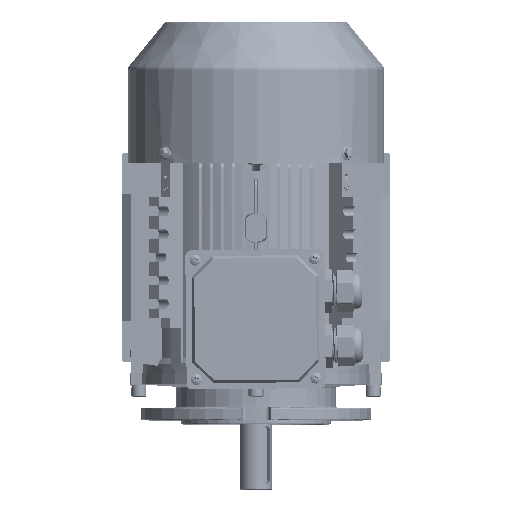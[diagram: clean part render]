
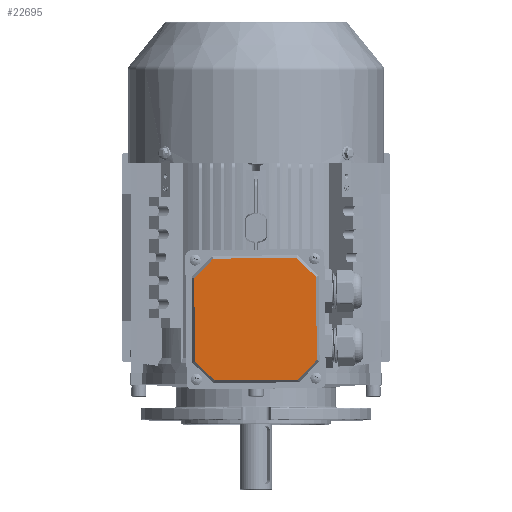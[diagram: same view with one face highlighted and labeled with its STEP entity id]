
A CAD part, top view. The second image highlights one B-rep face of the part: STEP entity #22695.
In plain terms, the highlighted planar face has unit normal (0, 0, 1) as drawn and (0, 0, -1) by its records, which use the part's own axes.
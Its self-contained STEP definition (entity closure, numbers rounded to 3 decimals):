
#18 = EDGE_CURVE ( 'NONE', #8169, #67440, #118262, .T. ) ;
#1458 = CARTESIAN_POINT ( 'NONE',  ( 35.903, -52.536, -4. ) ) ;
#4625 = EDGE_CURVE ( 'NONE', #53306, #39094, #10805, .T. ) ;
#4949 = LINE ( 'NONE', #43009, #77879 ) ;
#8169 = VERTEX_POINT ( 'NONE', #25770 ) ;
#8523 = VECTOR ( 'NONE', #73063, 1000. ) ;
#10805 = LINE ( 'NONE', #101719, #105967 ) ;
#12947 = VERTEX_POINT ( 'NONE', #62639 ) ;
#14933 = CARTESIAN_POINT ( 'NONE',  ( -35.903, -52.536, -4. ) ) ;
#17976 = EDGE_CURVE ( 'NONE', #88581, #93858, #122873, .T. ) ;
#21883 = VECTOR ( 'NONE', #92685, 1000. ) ;
#22695 = ADVANCED_FACE ( 'NONE', ( #48100 ), #47010, .F. ) ;
#22749 = CARTESIAN_POINT ( 'NONE',  ( -44.22, -44.22, -4. ) ) ;
#24150 = DIRECTION ( 'NONE',  ( -0.707, 0.707, 0. ) ) ;
#24283 = ORIENTED_EDGE ( 'NONE', *, *, #4625, .F. ) ;
#25770 = CARTESIAN_POINT ( 'NONE',  ( 52.536, 35.903, -4. ) ) ;
#28539 = CARTESIAN_POINT ( 'NONE',  ( 35.903, 52.536, -4. ) ) ;
#30411 = CARTESIAN_POINT ( 'NONE',  ( -52.536, -35.903, -4. ) ) ;
#31964 = CARTESIAN_POINT ( 'NONE',  ( -44.22, 44.22, -4. ) ) ;
#35096 = LINE ( 'NONE', #78581, #82713 ) ;
#39094 = VERTEX_POINT ( 'NONE', #86172 ) ;
#43009 = CARTESIAN_POINT ( 'NONE',  ( 0., 52.536, -4. ) ) ;
#43219 = CARTESIAN_POINT ( 'NONE',  ( 44.22, 44.22, -4. ) ) ;
#47010 = PLANE ( 'NONE',  #114962 ) ;
#47419 = DIRECTION ( 'NONE',  ( 0., 0., 1. ) ) ;
#48100 = FACE_OUTER_BOUND ( 'NONE', #119879, .T. ) ;
#48762 = ORIENTED_EDGE ( 'NONE', *, *, #110762, .F. ) ;
#49892 = LINE ( 'NONE', #31964, #122791 ) ;
#50945 = DIRECTION ( 'NONE',  ( 0.707, -0.707, 0. ) ) ;
#53306 = VERTEX_POINT ( 'NONE', #1458 ) ;
#59529 = ORIENTED_EDGE ( 'NONE', *, *, #17976, .F. ) ;
#62639 = CARTESIAN_POINT ( 'NONE',  ( -52.536, 35.903, -4. ) ) ;
#67440 = VERTEX_POINT ( 'NONE', #28539 ) ;
#67676 = VECTOR ( 'NONE', #24150, 1000. ) ;
#70546 = ORIENTED_EDGE ( 'NONE', *, *, #93700, .F. ) ;
#72396 = LINE ( 'NONE', #83075, #21883 ) ;
#73063 = DIRECTION ( 'NONE',  ( 1., 0., 0. ) ) ;
#74746 = ORIENTED_EDGE ( 'NONE', *, *, #113375, .F. ) ;
#77879 = VECTOR ( 'NONE', #100042, 1000. ) ;
#78581 = CARTESIAN_POINT ( 'NONE',  ( -52.536, 0., -4. ) ) ;
#82713 = VECTOR ( 'NONE', #88184, 1000. ) ;
#83075 = CARTESIAN_POINT ( 'NONE',  ( 52.536, 0., -4. ) ) ;
#86172 = CARTESIAN_POINT ( 'NONE',  ( 52.536, -35.903, -4. ) ) ;
#86776 = ORIENTED_EDGE ( 'NONE', *, *, #18, .F. ) ;
#88184 = DIRECTION ( 'NONE',  ( 0., -1., 0. ) ) ;
#88581 = VERTEX_POINT ( 'NONE', #30411 ) ;
#92264 = CARTESIAN_POINT ( 'NONE',  ( -35.903, 52.536, -4. ) ) ;
#92457 = EDGE_CURVE ( 'NONE', #93858, #53306, #109669, .T. ) ;
#92685 = DIRECTION ( 'NONE',  ( 0., 1., 0. ) ) ;
#93700 = EDGE_CURVE ( 'NONE', #120114, #12947, #49892, .T. ) ;
#93858 = VERTEX_POINT ( 'NONE', #14933 ) ;
#98461 = EDGE_CURVE ( 'NONE', #39094, #8169, #72396, .T. ) ;
#98543 = DIRECTION ( 'NONE',  ( -0.707, -0.707, 0. ) ) ;
#100042 = DIRECTION ( 'NONE',  ( -1., 0., 0. ) ) ;
#100599 = VECTOR ( 'NONE', #50945, 1000. ) ;
#101719 = CARTESIAN_POINT ( 'NONE',  ( 44.22, -44.22, -4. ) ) ;
#104396 = CARTESIAN_POINT ( 'NONE',  ( 0., 0., -4. ) ) ;
#105967 = VECTOR ( 'NONE', #121208, 1000. ) ;
#109669 = LINE ( 'NONE', #120472, #8523 ) ;
#110762 = EDGE_CURVE ( 'NONE', #12947, #88581, #35096, .T. ) ;
#113375 = EDGE_CURVE ( 'NONE', #67440, #120114, #4949, .T. ) ;
#113946 = DIRECTION ( 'NONE',  ( 1., 0., 0. ) ) ;
#114952 = ORIENTED_EDGE ( 'NONE', *, *, #98461, .F. ) ;
#114962 = AXIS2_PLACEMENT_3D ( 'NONE', #104396, #47419, #113946 ) ;
#118262 = LINE ( 'NONE', #43219, #67676 ) ;
#119017 = ORIENTED_EDGE ( 'NONE', *, *, #92457, .F. ) ;
#119879 = EDGE_LOOP ( 'NONE', ( #114952, #24283, #119017, #59529, #48762, #70546, #74746, #86776 ) ) ;
#120114 = VERTEX_POINT ( 'NONE', #92264 ) ;
#120472 = CARTESIAN_POINT ( 'NONE',  ( 0., -52.536, -4. ) ) ;
#121208 = DIRECTION ( 'NONE',  ( 0.707, 0.707, 0. ) ) ;
#122791 = VECTOR ( 'NONE', #98543, 1000. ) ;
#122873 = LINE ( 'NONE', #22749, #100599 ) ;
